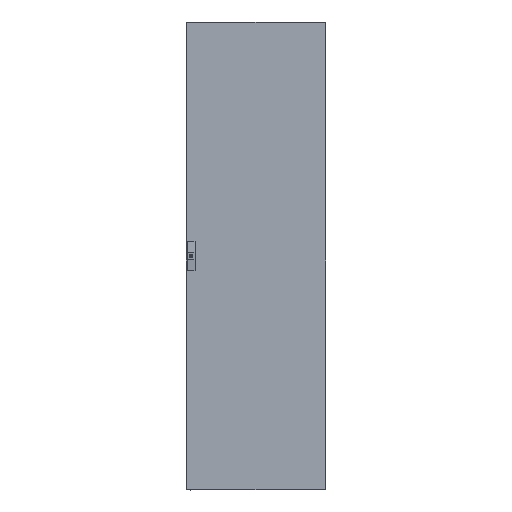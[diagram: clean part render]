
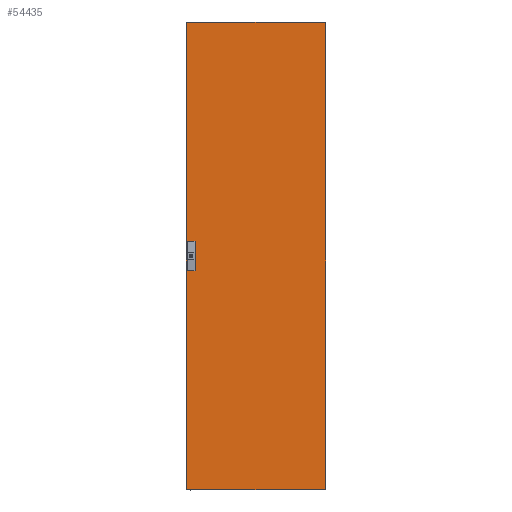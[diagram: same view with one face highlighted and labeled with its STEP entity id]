
A CAD part, top view. The second image highlights one B-rep face of the part: STEP entity #54435.
In plain terms, the highlighted planar face has unit normal (0, 0, 1).
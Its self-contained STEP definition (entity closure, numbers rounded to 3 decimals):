
#107 = LINE ( 'NONE', #15117, #89259 ) ;
#3782 = ORIENTED_EDGE ( 'NONE', *, *, #40373, .T. ) ;
#4077 = ORIENTED_EDGE ( 'NONE', *, *, #59723, .T. ) ;
#4238 = EDGE_CURVE ( 'NONE', #65343, #30203, #86751, .T. ) ;
#5036 = CARTESIAN_POINT ( 'NONE',  ( 0., -992.859, 6.5 ) ) ;
#6404 = CARTESIAN_POINT ( 'NONE',  ( -295.359, 992.859, 6.5 ) ) ;
#8028 = LINE ( 'NONE', #96707, #8622 ) ;
#8622 = VECTOR ( 'NONE', #101028, 1000. ) ;
#9528 = CARTESIAN_POINT ( 'NONE',  ( 295.359, 0., 6.5 ) ) ;
#10275 = EDGE_CURVE ( 'NONE', #69452, #66971, #80584, .T. ) ;
#10469 = CARTESIAN_POINT ( 'NONE',  ( -297.5, -992.859, 6.5 ) ) ;
#11600 = DIRECTION ( 'NONE',  ( -1., 0., 0. ) ) ;
#13623 = ORIENTED_EDGE ( 'NONE', *, *, #10275, .F. ) ;
#14789 = ORIENTED_EDGE ( 'NONE', *, *, #73498, .F. ) ;
#14885 = VECTOR ( 'NONE', #49685, 1000. ) ;
#15117 = CARTESIAN_POINT ( 'NONE',  ( -295.359, 993., 6.5 ) ) ;
#15272 = CARTESIAN_POINT ( 'NONE',  ( -295.359, 995., 6.5 ) ) ;
#15770 = ORIENTED_EDGE ( 'NONE', *, *, #99700, .T. ) ;
#16730 = CARTESIAN_POINT ( 'NONE',  ( 0., -995., 6.5 ) ) ;
#17429 = LINE ( 'NONE', #49051, #49786 ) ;
#18376 = AXIS2_PLACEMENT_3D ( 'NONE', #50506, #97752, #82179 ) ;
#18890 = FACE_BOUND ( 'NONE', #44850, .T. ) ;
#19700 = CARTESIAN_POINT ( 'NONE',  ( 295.359, 992.859, 6.5 ) ) ;
#20925 = CARTESIAN_POINT ( 'NONE',  ( -295.359, -992.859, 6.5 ) ) ;
#22168 = VECTOR ( 'NONE', #56768, 1000. ) ;
#22295 = VERTEX_POINT ( 'NONE', #59019 ) ;
#22387 = VECTOR ( 'NONE', #37229, 1000. ) ;
#22531 = LINE ( 'NONE', #69256, #99101 ) ;
#23214 = EDGE_CURVE ( 'NONE', #59744, #85614, #107, .T. ) ;
#25024 = DIRECTION ( 'NONE',  ( -1., 0., 0. ) ) ;
#25054 = ORIENTED_EDGE ( 'NONE', *, *, #4238, .F. ) ;
#25105 = ORIENTED_EDGE ( 'NONE', *, *, #36771, .T. ) ;
#26236 = CARTESIAN_POINT ( 'NONE',  ( 295.359, -995., 6.5 ) ) ;
#27353 = LINE ( 'NONE', #59026, #14885 ) ;
#27663 = ORIENTED_EDGE ( 'NONE', *, *, #51869, .T. ) ;
#27824 = LINE ( 'NONE', #5036, #99279 ) ;
#27954 = CARTESIAN_POINT ( 'NONE',  ( 295.5, 992.859, 6.5 ) ) ;
#28533 = LINE ( 'NONE', #53937, #55630 ) ;
#28849 = DIRECTION ( 'NONE',  ( -1., 0., 0. ) ) ;
#29411 = VERTEX_POINT ( 'NONE', #50303 ) ;
#30203 = VERTEX_POINT ( 'NONE', #35405 ) ;
#31604 = LINE ( 'NONE', #95948, #33394 ) ;
#32467 = DIRECTION ( 'NONE',  ( 0., -1., 0. ) ) ;
#33121 = VERTEX_POINT ( 'NONE', #92914 ) ;
#33394 = VECTOR ( 'NONE', #80367, 1000. ) ;
#35405 = CARTESIAN_POINT ( 'NONE',  ( -295.359, -995., 6.5 ) ) ;
#36771 = EDGE_CURVE ( 'NONE', #45145, #78568, #39163, .T. ) ;
#37061 = DIRECTION ( 'NONE',  ( 0., 1., 0. ) ) ;
#37229 = DIRECTION ( 'NONE',  ( 0., 1., 0. ) ) ;
#39163 = LINE ( 'NONE', #94710, #39298 ) ;
#39298 = VECTOR ( 'NONE', #79663, 1000. ) ;
#39616 = CARTESIAN_POINT ( 'NONE',  ( 0., 995., 6.5 ) ) ;
#40373 = EDGE_CURVE ( 'NONE', #78568, #30203, #27353, .T. ) ;
#40657 = CARTESIAN_POINT ( 'NONE',  ( -291.5, 62.5, 6.5 ) ) ;
#41738 = CARTESIAN_POINT ( 'NONE',  ( 297.5, -992.859, 6.5 ) ) ;
#42428 = ORIENTED_EDGE ( 'NONE', *, *, #23214, .T. ) ;
#42725 = PLANE ( 'NONE',  #18376 ) ;
#44850 = EDGE_LOOP ( 'NONE', ( #4077, #70764, #84454, #63332 ) ) ;
#45145 = VERTEX_POINT ( 'NONE', #10469 ) ;
#47829 = EDGE_CURVE ( 'NONE', #51651, #85614, #28533, .T. ) ;
#49051 = CARTESIAN_POINT ( 'NONE',  ( -259.5, -62.5, 6.5 ) ) ;
#49231 = VECTOR ( 'NONE', #102437, 1000. ) ;
#49458 = LINE ( 'NONE', #39616, #49231 ) ;
#49685 = DIRECTION ( 'NONE',  ( 0., -1., 0. ) ) ;
#49786 = VECTOR ( 'NONE', #32467, 1000. ) ;
#49795 = EDGE_CURVE ( 'NONE', #59744, #69452, #49458, .T. ) ;
#50016 = VECTOR ( 'NONE', #25024, 1000. ) ;
#50303 = CARTESIAN_POINT ( 'NONE',  ( -259.5, 62.5, 6.5 ) ) ;
#50506 = CARTESIAN_POINT ( 'NONE',  ( 0., 0., 6.5 ) ) ;
#51651 = VERTEX_POINT ( 'NONE', #99382 ) ;
#51807 = DIRECTION ( 'NONE',  ( -1., 0., 0. ) ) ;
#51869 = EDGE_CURVE ( 'NONE', #65343, #95162, #22531, .T. ) ;
#52081 = EDGE_CURVE ( 'NONE', #83242, #33121, #82648, .T. ) ;
#53937 = CARTESIAN_POINT ( 'NONE',  ( 0., 992.859, 6.5 ) ) ;
#54435 = ADVANCED_FACE ( 'NONE', ( #18890, #74910 ), #42725, .T. ) ;
#55630 = VECTOR ( 'NONE', #68011, 1000. ) ;
#56768 = DIRECTION ( 'NONE',  ( 0., 1., 0. ) ) ;
#57184 = EDGE_CURVE ( 'NONE', #100166, #29411, #31604, .T. ) ;
#57256 = DIRECTION ( 'NONE',  ( 0., -1., 0. ) ) ;
#57579 = ORIENTED_EDGE ( 'NONE', *, *, #84681, .F. ) ;
#59019 = CARTESIAN_POINT ( 'NONE',  ( 297.5, 992.859, 6.5 ) ) ;
#59026 = CARTESIAN_POINT ( 'NONE',  ( -295.359, -993., 6.5 ) ) ;
#59723 = EDGE_CURVE ( 'NONE', #33121, #100166, #96200, .T. ) ;
#59744 = VERTEX_POINT ( 'NONE', #15272 ) ;
#63332 = ORIENTED_EDGE ( 'NONE', *, *, #52081, .T. ) ;
#64847 = ORIENTED_EDGE ( 'NONE', *, *, #47829, .F. ) ;
#65343 = VERTEX_POINT ( 'NONE', #26236 ) ;
#65561 = VECTOR ( 'NONE', #57256, 1000. ) ;
#66971 = VERTEX_POINT ( 'NONE', #19700 ) ;
#67380 = LINE ( 'NONE', #99021, #22387 ) ;
#68011 = DIRECTION ( 'NONE',  ( 1., 0., 0. ) ) ;
#69256 = CARTESIAN_POINT ( 'NONE',  ( 295.359, -993., 6.5 ) ) ;
#69452 = VERTEX_POINT ( 'NONE', #88973 ) ;
#70764 = ORIENTED_EDGE ( 'NONE', *, *, #57184, .T. ) ;
#73498 = EDGE_CURVE ( 'NONE', #22295, #82482, #8028, .T. ) ;
#74574 = CARTESIAN_POINT ( 'NONE',  ( -291.5, 62.5, 6.5 ) ) ;
#74910 = FACE_OUTER_BOUND ( 'NONE', #82788, .T. ) ;
#78568 = VERTEX_POINT ( 'NONE', #20925 ) ;
#79663 = DIRECTION ( 'NONE',  ( 1., 0., 0. ) ) ;
#80367 = DIRECTION ( 'NONE',  ( 1., 0., 0. ) ) ;
#80584 = LINE ( 'NONE', #9528, #65561 ) ;
#82004 = VECTOR ( 'NONE', #51807, 1000. ) ;
#82179 = DIRECTION ( 'NONE',  ( 1., 0., 0. ) ) ;
#82482 = VERTEX_POINT ( 'NONE', #41738 ) ;
#82648 = LINE ( 'NONE', #89924, #89246 ) ;
#82788 = EDGE_LOOP ( 'NONE', ( #3782, #25054, #27663, #95830, #14789, #15770, #13623, #85221, #42428, #64847, #57579, #25105 ) ) ;
#83242 = VERTEX_POINT ( 'NONE', #86519 ) ;
#84454 = ORIENTED_EDGE ( 'NONE', *, *, #93956, .T. ) ;
#84681 = EDGE_CURVE ( 'NONE', #45145, #51651, #67380, .T. ) ;
#85221 = ORIENTED_EDGE ( 'NONE', *, *, #49795, .F. ) ;
#85614 = VERTEX_POINT ( 'NONE', #6404 ) ;
#86060 = CARTESIAN_POINT ( 'NONE',  ( 295.359, -992.859, 6.5 ) ) ;
#86519 = CARTESIAN_POINT ( 'NONE',  ( -259.5, -62.5, 6.5 ) ) ;
#86751 = LINE ( 'NONE', #16730, #50016 ) ;
#88973 = CARTESIAN_POINT ( 'NONE',  ( 295.359, 995., 6.5 ) ) ;
#89246 = VECTOR ( 'NONE', #11600, 1000. ) ;
#89259 = VECTOR ( 'NONE', #94495, 1000. ) ;
#89924 = CARTESIAN_POINT ( 'NONE',  ( -291.5, -62.5, 6.5 ) ) ;
#92537 = EDGE_CURVE ( 'NONE', #82482, #95162, #27824, .T. ) ;
#92914 = CARTESIAN_POINT ( 'NONE',  ( -291.5, -62.5, 6.5 ) ) ;
#93956 = EDGE_CURVE ( 'NONE', #29411, #83242, #17429, .T. ) ;
#94495 = DIRECTION ( 'NONE',  ( 0., -1., 0. ) ) ;
#94710 = CARTESIAN_POINT ( 'NONE',  ( -295.5, -992.859, 6.5 ) ) ;
#95162 = VERTEX_POINT ( 'NONE', #86060 ) ;
#95830 = ORIENTED_EDGE ( 'NONE', *, *, #92537, .F. ) ;
#95948 = CARTESIAN_POINT ( 'NONE',  ( -259.5, 62.5, 6.5 ) ) ;
#96200 = LINE ( 'NONE', #40657, #22168 ) ;
#96707 = CARTESIAN_POINT ( 'NONE',  ( 297.5, 0., 6.5 ) ) ;
#97752 = DIRECTION ( 'NONE',  ( 0., 0., 1. ) ) ;
#99021 = CARTESIAN_POINT ( 'NONE',  ( -297.5, 0., 6.5 ) ) ;
#99101 = VECTOR ( 'NONE', #37061, 1000. ) ;
#99279 = VECTOR ( 'NONE', #28849, 1000. ) ;
#99382 = CARTESIAN_POINT ( 'NONE',  ( -297.5, 992.859, 6.5 ) ) ;
#99700 = EDGE_CURVE ( 'NONE', #22295, #66971, #101093, .T. ) ;
#100166 = VERTEX_POINT ( 'NONE', #74574 ) ;
#101028 = DIRECTION ( 'NONE',  ( 0., -1., 0. ) ) ;
#101093 = LINE ( 'NONE', #27954, #82004 ) ;
#102437 = DIRECTION ( 'NONE',  ( 1., 0., 0. ) ) ;
